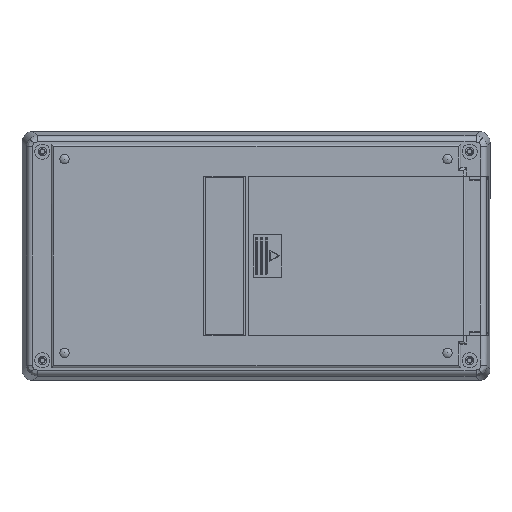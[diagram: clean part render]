
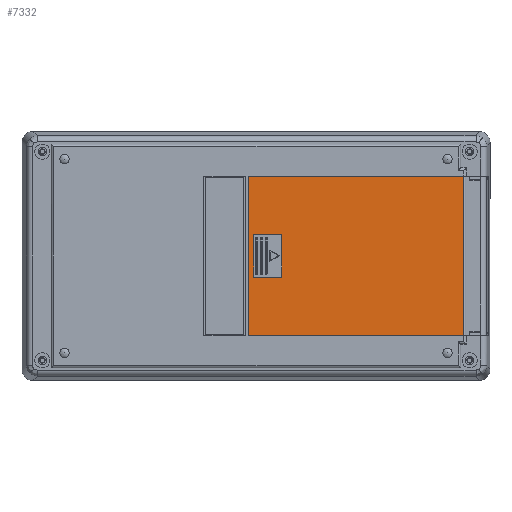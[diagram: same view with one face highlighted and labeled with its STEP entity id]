
A CAD part, front view. The second image highlights one B-rep face of the part: STEP entity #7332.
In plain terms, the highlighted planar face has unit normal (0, -1, 0).
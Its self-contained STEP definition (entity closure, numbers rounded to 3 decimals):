
#2538 = VERTEX_POINT ( 'NONE', #4906 ) ;
#3152 = LINE ( 'NONE', #23971, #15638 ) ;
#3334 = ORIENTED_EDGE ( 'NONE', *, *, #20935, .F. ) ;
#3855 = ORIENTED_EDGE ( 'NONE', *, *, #21938, .F. ) ;
#3926 = VERTEX_POINT ( 'NONE', #30484 ) ;
#4114 = DIRECTION ( 'NONE',  ( 0., 0., 1. ) ) ;
#4166 = EDGE_CURVE ( 'NONE', #2538, #7277, #3152, .T. ) ;
#4567 = LINE ( 'NONE', #25815, #10441 ) ;
#4906 = CARTESIAN_POINT ( 'NONE',  ( 25.2, 0., 32.4 ) ) ;
#5304 = LINE ( 'NONE', #7470, #17782 ) ;
#5825 = LINE ( 'NONE', #31415, #30707 ) ;
#6964 = DIRECTION ( 'NONE',  ( 0., 0., -1. ) ) ;
#7277 = VERTEX_POINT ( 'NONE', #17441 ) ;
#7332 = ADVANCED_FACE ( 'NONE', ( #9507, #23446 ), #7940, .F. ) ;
#7470 = CARTESIAN_POINT ( 'NONE',  ( 112.7, 0., 32.4 ) ) ;
#7940 = PLANE ( 'NONE',  #31474 ) ;
#8769 = EDGE_LOOP ( 'NONE', ( #27712, #17831, #23962, #9733 ) ) ;
#9015 = EDGE_LOOP ( 'NONE', ( #3855, #3334, #13765, #14032 ) ) ;
#9116 = DIRECTION ( 'NONE',  ( 1., 0., 0. ) ) ;
#9327 = LINE ( 'NONE', #21937, #21742 ) ;
#9507 = FACE_BOUND ( 'NONE', #9015, .T. ) ;
#9733 = ORIENTED_EDGE ( 'NONE', *, *, #13381, .T. ) ;
#10022 = DIRECTION ( 'NONE',  ( 0., 0., -1. ) ) ;
#10441 = VECTOR ( 'NONE', #30947, 1000. ) ;
#10970 = EDGE_CURVE ( 'NONE', #24333, #18199, #17460, .T. ) ;
#11644 = CARTESIAN_POINT ( 'NONE',  ( 25.2, 0., -32.4 ) ) ;
#13059 = DIRECTION ( 'NONE',  ( 0., 0., 1. ) ) ;
#13216 = VERTEX_POINT ( 'NONE', #22854 ) ;
#13381 = EDGE_CURVE ( 'NONE', #2538, #24333, #23705, .T. ) ;
#13736 = CARTESIAN_POINT ( 'NONE',  ( 25.2, 0., 32.4 ) ) ;
#13765 = ORIENTED_EDGE ( 'NONE', *, *, #23242, .F. ) ;
#14032 = ORIENTED_EDGE ( 'NONE', *, *, #30567, .F. ) ;
#14452 = DIRECTION ( 'NONE',  ( -1., 0., 0. ) ) ;
#14917 = CARTESIAN_POINT ( 'NONE',  ( 112.7, 0., -32.4 ) ) ;
#15056 = VECTOR ( 'NONE', #6964, 1000. ) ;
#15450 = CARTESIAN_POINT ( 'NONE',  ( 25.2, 0., 32.4 ) ) ;
#15630 = DIRECTION ( 'NONE',  ( 1., 0., 0. ) ) ;
#15638 = VECTOR ( 'NONE', #9116, 1000. ) ;
#15866 = VECTOR ( 'NONE', #15630, 1000. ) ;
#16606 = LINE ( 'NONE', #26850, #15056 ) ;
#17441 = CARTESIAN_POINT ( 'NONE',  ( 112.7, 0., 32.4 ) ) ;
#17460 = LINE ( 'NONE', #27998, #15866 ) ;
#17782 = VECTOR ( 'NONE', #10022, 1000. ) ;
#17831 = ORIENTED_EDGE ( 'NONE', *, *, #27916, .F. ) ;
#18199 = VERTEX_POINT ( 'NONE', #14917 ) ;
#20935 = EDGE_CURVE ( 'NONE', #13216, #29325, #5825, .T. ) ;
#21742 = VECTOR ( 'NONE', #14452, 1000. ) ;
#21937 = CARTESIAN_POINT ( 'NONE',  ( 38.7, 0., 8.75 ) ) ;
#21938 = EDGE_CURVE ( 'NONE', #29325, #28850, #9327, .T. ) ;
#22854 = CARTESIAN_POINT ( 'NONE',  ( 38.7, 0., -8.75 ) ) ;
#23242 = EDGE_CURVE ( 'NONE', #3926, #13216, #4567, .T. ) ;
#23446 = FACE_OUTER_BOUND ( 'NONE', #8769, .T. ) ;
#23705 = LINE ( 'NONE', #13736, #30312 ) ;
#23962 = ORIENTED_EDGE ( 'NONE', *, *, #4166, .F. ) ;
#23971 = CARTESIAN_POINT ( 'NONE',  ( 25.2, 0., 32.4 ) ) ;
#24333 = VERTEX_POINT ( 'NONE', #11644 ) ;
#25815 = CARTESIAN_POINT ( 'NONE',  ( 38.7, 0., -8.75 ) ) ;
#26081 = DIRECTION ( 'NONE',  ( 0., 0., -1. ) ) ;
#26850 = CARTESIAN_POINT ( 'NONE',  ( 27.2, 0., 8.75 ) ) ;
#27712 = ORIENTED_EDGE ( 'NONE', *, *, #10970, .T. ) ;
#27916 = EDGE_CURVE ( 'NONE', #7277, #18199, #5304, .T. ) ;
#27928 = DIRECTION ( 'NONE',  ( 0., 1., 0. ) ) ;
#27998 = CARTESIAN_POINT ( 'NONE',  ( 25.2, 0., -32.4 ) ) ;
#28850 = VERTEX_POINT ( 'NONE', #31304 ) ;
#29325 = VERTEX_POINT ( 'NONE', #30619 ) ;
#30312 = VECTOR ( 'NONE', #26081, 1000. ) ;
#30484 = CARTESIAN_POINT ( 'NONE',  ( 27.2, 0., -8.75 ) ) ;
#30567 = EDGE_CURVE ( 'NONE', #28850, #3926, #16606, .T. ) ;
#30619 = CARTESIAN_POINT ( 'NONE',  ( 38.7, 0., 8.75 ) ) ;
#30707 = VECTOR ( 'NONE', #4114, 1000. ) ;
#30947 = DIRECTION ( 'NONE',  ( 1., 0., 0. ) ) ;
#31304 = CARTESIAN_POINT ( 'NONE',  ( 27.2, 0., 8.75 ) ) ;
#31415 = CARTESIAN_POINT ( 'NONE',  ( 38.7, 0., 8.75 ) ) ;
#31474 = AXIS2_PLACEMENT_3D ( 'NONE', #15450, #27928, #13059 ) ;
